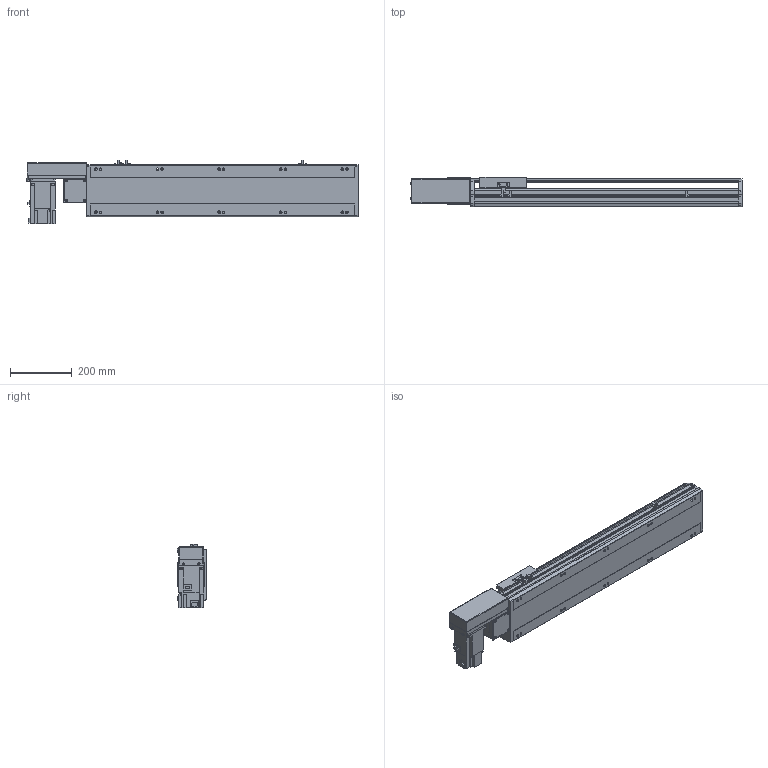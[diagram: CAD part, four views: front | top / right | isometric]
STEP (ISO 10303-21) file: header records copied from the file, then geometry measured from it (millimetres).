
FILE_DESCRIPTION( ( 'STEP AP214' ), '1' );
FILE_NAME( 'x:/temp/worker_4/temp/exporttempdir_2248_257_E78Fc/format_0/PBS170-P40-S600-R-T75-C1-N(0).stp', '2022-06-07T07:29:22', ( 'License CC BY-ND 4.0' ), ( 'CADENAS' ), ' ', 'PARTsolutions', ' ' );
FILE_SCHEMA( ( 'AUTOMOTIVE_DESIGN { 1 0 10303 214 1 1 1 1 }' ) );
Length unit declared in the file: millimetre
Products named in the file (7): PBS170-P40-S600-R-T75-C1-N(0); _PBS170-S600()_body; _PBS170T-R_motors; _T75-p1; _PBS170_sliser; _PBS170_plant; _PBS170_sensor
Assembly tree (8 placements, depth 2):
  PBS170-P40-S600-R-T75-C1-N(0)
    _PBS170-S600()_body
    _PBS170T-R_motors
    _T75-p1
    _PBS170_sliser
    _PBS170_plant
    _PBS170_sensor  x3
Bounding box: 1078 x 97 x 205.3 mm (x, y, z)
Volume: 8142545.9 mm3; surface area: 1095428.3 mm2
Topology: 8 solids, 8 shells, 1034 faces, 2755 edges, 1796 vertices
Faces by surface type: plane 669, cylinder 315, cone 40, sphere 8, torus 2
Full cylindrical faces by diameter (mm): 3.242 x4, 4 x2, 4.4 x4, 4.5 x6, 4.917 x4, 6 x9, 6.647 x18, 7 x2, 7.5 x4, 8 x8, 8.5 x10, 10 x4, 10.5 x10, 11 x2, 30 x2, 40 x1, 70 x1
Entity records: 37814 total; most frequent: CARTESIAN_POINT 5717, DIRECTION 5090, ORIENTED_EDGE 4848, EDGE_CURVE 2424, AXIS2_PLACEMENT_3D 1747, VERTEX_POINT 1658, LINE 1596, VECTOR 1596
